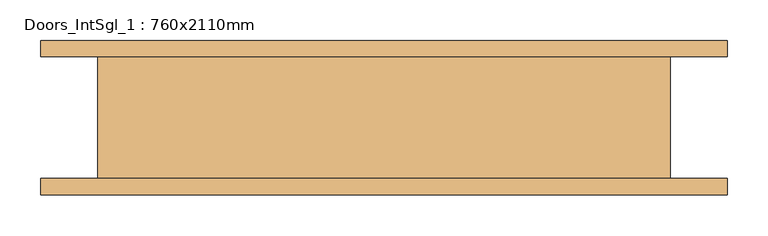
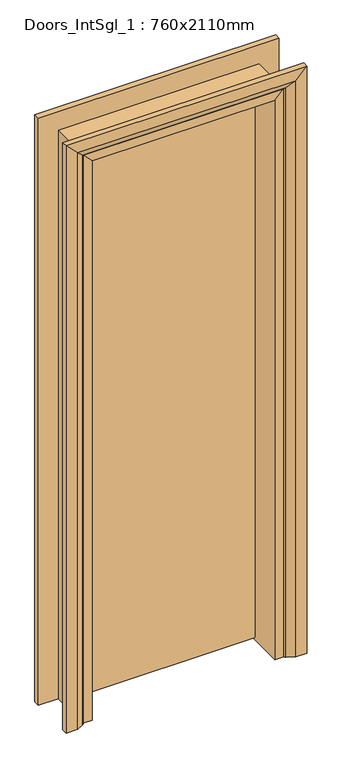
"""IFC4 building model written with IfcOpenShell, lengths in millimetres: door geometry, Doors_IntSgl_1 : 760x2110mm."""

from ifc_helpers import new_model, si_unit, frame, origin, place, context, project, spatial, polyline, circle_curve, ellipse_curve, outline, extrude, faceted_brep, source, transform, mapped, element, save
from ifc_brep_helpers import plane_surface, cylinder_surface, advanced_brep


def doors_intsgl_1_760x2110mm_a62a0124(model_context):
    return source(origin(), model_context, "Body", "SolidModel", [
        extrude(outline(polyline([(345.0, 45.0), (-345.0, 45.0), (-345.0, 75.0), (345.0, 75.0), (345.0, 45.0)])), frame((0.0, 0.0, 8.0), z_axis=(0.0, 0.0, 1.0), x_axis=(1.0, 0.0, 0.0)), (0.0, 0.0, 1.0), 2087.0),
        advanced_brep(
        [(422.0, 95.0, 0.0), (422.0, 75.0, 0.0), (352.0, 75.0, 0.0), (356.0, 81.0, 0.0), (382.0, 95.0, 0.0), (422.0, 95.0, 2172.0), (422.0, 75.0, 2172.0), (-422.0, 75.0, 2172.0), (-422.0, 75.0, 0.0), (-352.0, 75.0, 0.0), (-352.0, 75.0, 2102.0), (352.0, 75.0, 2102.0), (356.0, 81.0, 2106.0), (382.0, 95.0, 2132.0), (-382.0, 95.0, 2132.0), (-382.0, 95.0, 0.0), (-422.0, 95.0, 0.0), (-422.0, 95.0, 2172.0), (-356.0, 81.0, 0.0), (-356.0, 81.0, 2106.0)],
        [
            (0, 1),
            (1, 2),
            (2, 3, circle_curve(frame((360.0, 74.0, 0.0), z_axis=(0.0, 0.0, -1.0), x_axis=(1.0, 0.0, 0.0)), 8.0622577)),
            (3, 4),
            (4, 0),
            (0, 5),
            (5, 6),
            (6, 1),
            (6, 7),
            (7, 8),
            (8, 9),
            (9, 10),
            (10, 11),
            (11, 2),
            (11, 12, ellipse_curve(frame((360.0, 74.0, 2110.0), z_axis=(0.7071067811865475, 0.0, -0.7071067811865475), x_axis=(-0.7071067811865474, 0.0, -0.7071067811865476)), 11.4017543, 8.0622577)),
            (12, 3),
            (12, 13),
            (13, 4),
            (13, 14),
            (14, 15),
            (15, 16),
            (16, 17),
            (17, 5),
            (7, 17),
            (16, 8),
            (15, 18),
            (18, 9, circle_curve(frame((-360.0, 74.0, 0.0), z_axis=(0.0, 0.0, -1.0), x_axis=(-1.0, 0.0, 0.0)), 8.0622577)),
            (19, 10, ellipse_curve(frame((-360.0, 74.0, 2110.0), z_axis=(-0.7071067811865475, 0.0, -0.7071067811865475), x_axis=(-0.7071067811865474, 0.0, 0.7071067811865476)), 11.4017543, 8.0622577)),
            (18, 19),
            (14, 19),
            (19, 12),
        ],
        [
            plane_surface(frame((352.0, 75.0, 0.0), z_axis=(0.0, 0.0, -1.0), x_axis=(0.0, -1.0, 0.0))),
            plane_surface(frame((422.0, 95.0, 0.0), z_axis=(1.0, 0.0, 0.0), x_axis=(0.0, 0.0, 1.0))),
            plane_surface(frame((422.0, 75.0, 0.0), z_axis=(0.0, -1.0, 0.0), x_axis=(0.0, 0.0, 1.0))),
            cylinder_surface(frame((360.0, 74.0, 0.0), z_axis=(0.0, 0.0, -1.0), x_axis=(1.0, 0.0, 0.0)), 8.0622577),
            plane_surface(frame((356.0, 81.0, 0.0), z_axis=(-0.4740998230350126, 0.880471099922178, 0.0), x_axis=(0.0, 0.0, 1.0))),
            plane_surface(frame((382.0, 95.0, 0.0), z_axis=(0.0, 1.0, 0.0), x_axis=(0.0, 0.0, 1.0))),
            plane_surface(frame((-422.0, 95.0, 2172.0), z_axis=(-1.0, 0.0, 0.0), x_axis=(0.0, 0.0, -1.0))),
            plane_surface(frame((-352.0, 75.0, 0.0), z_axis=(0.0, 0.0, -1.0), x_axis=(0.0, -1.0, 0.0))),
            cylinder_surface(frame((-360.0, 74.0, 2102.0), z_axis=(0.0, 0.0, 1.0), x_axis=(-1.0, 0.0, 0.0)), 8.0622577),
            plane_surface(frame((-356.0, 81.0, 2106.0), z_axis=(0.47409982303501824, 0.8804710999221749, 0.0), x_axis=(0.0, 0.0, -1.0))),
            plane_surface(frame((422.0, 95.0, 2172.0), z_axis=(0.0, 0.0, 1.0), x_axis=(-1.0, 0.0, 0.0))),
            cylinder_surface(frame((352.0, 74.0, 2110.0), z_axis=(1.0, 0.0, 0.0), x_axis=(0.0, 0.0, 1.0)), 8.0622577),
            plane_surface(frame((356.0, 81.0, 2106.0), z_axis=(0.0, 0.8804710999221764, -0.4740998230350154), x_axis=(-1.0, 0.0, 0.0))),
        ],
        [
            (0, [[1, 2, 3, 4, 5]]),
            (1, [[-1, 6, 7, 8]]),
            (2, [[-2, -8, 9, 10, 11, 12, 13, 14]]),
            (3, [[-3, -14, 15, 16]]),
            (4, [[-4, -16, 17, 18]]),
            (5, [[-5, -18, 19, 20, 21, 22, 23, -6]]),
            (6, [[24, -22, 25, -10]]),
            (7, [[-21, 26, 27, -11, -25]]),
            (8, [[28, -12, -27, 29]]),
            (9, [[30, -29, -26, -20]]),
            (10, [[-7, -23, -24, -9]]),
            (11, [[-15, -13, -28, 31]]),
            (12, [[-17, -31, -30, -19]]),
        ],
    ),
        extrude(outline(polyline([(0.0, -347.0), (0.0, -328.0), (2078.0, -328.0), (2078.0, 328.0), (0.0, 328.0), (0.0, 347.0), (2097.0, 347.0), (2097.0, -347.0), (0.0, -347.0)])), frame((0.0, 11.0, 0.0), z_axis=(0.0, 1.0, 0.0), x_axis=(0.0, 0.0, 1.0)), (0.0, 0.0, 1.0), 32.0),
        advanced_brep(
        [(-422.0, -95.0, 0.0), (-422.0, -75.0, 0.0), (-352.0, -75.0, 0.0), (-356.0, -81.0, 0.0), (-382.0, -95.0, 0.0), (-422.0, -95.0, 2172.0), (-422.0, -75.0, 2172.0), (-352.0, -75.0, 2102.0), (-356.0, -81.0, 2106.0), (-382.0, -95.0, 2132.0), (422.0, -95.0, 0.0), (382.0, -95.0, 0.0), (356.0, -81.0, 0.0), (352.0, -75.0, 0.0), (422.0, -75.0, 0.0), (422.0, -95.0, 2172.0), (382.0, -95.0, 2132.0), (356.0, -81.0, 2106.0), (352.0, -75.0, 2102.0), (422.0, -75.0, 2172.0)],
        [
            (0, 1),
            (1, 2),
            (2, 3, circle_curve(frame((-360.0, -74.0, 0.0), z_axis=(0.0, 0.0, -1.0), x_axis=(-1.0, 0.0, 0.0)), 8.0622577)),
            (3, 4),
            (4, 0),
            (0, 5),
            (5, 6),
            (6, 1),
            (6, 7),
            (7, 2),
            (7, 8, ellipse_curve(frame((-360.0, -74.0, 2110.0), z_axis=(-0.7071067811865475, 0.0, -0.7071067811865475), x_axis=(0.7071067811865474, 0.0, -0.7071067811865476)), 11.4017543, 8.0622577)),
            (8, 3),
            (8, 9),
            (9, 4),
            (9, 5),
            (10, 11),
            (11, 12),
            (12, 13, circle_curve(frame((360.0, -74.0, 0.0), z_axis=(0.0, 0.0, -1.0), x_axis=(1.0, 0.0, 0.0)), 8.0622577)),
            (13, 14),
            (14, 10),
            (15, 16),
            (16, 11),
            (10, 15),
            (16, 17),
            (17, 12),
            (17, 18, ellipse_curve(frame((360.0, -74.0, 2110.0), z_axis=(0.7071067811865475, 0.0, -0.7071067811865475), x_axis=(0.7071067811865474, 0.0, 0.7071067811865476)), 11.4017543, 8.0622577)),
            (18, 13),
            (18, 19),
            (19, 14),
            (19, 15),
            (5, 15),
            (19, 6),
            (18, 7),
            (17, 8),
            (16, 9),
        ],
        [
            plane_surface(frame((-352.0, -147.8010989, 0.0), z_axis=(0.0, 0.0, -1.0), x_axis=(1.0, 0.0, 0.0))),
            plane_surface(frame((-422.0, -95.0, 0.0), z_axis=(-1.0, 0.0, 0.0), x_axis=(0.0, 0.0, 1.0))),
            plane_surface(frame((-422.0, -75.0, 0.0), z_axis=(0.0, 1.0, 0.0), x_axis=(0.0, 0.0, 1.0))),
            cylinder_surface(frame((-360.0, -74.0, 0.0), z_axis=(0.0, 0.0, -1.0), x_axis=(-1.0, 0.0, 0.0)), 8.0622577),
            plane_surface(frame((-356.0, -81.0, 0.0), z_axis=(0.4740998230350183, -0.8804710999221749, 0.0), x_axis=(0.0, 0.0, 1.0))),
            plane_surface(frame((-382.0, -95.0, 0.0), z_axis=(0.0, -1.0, 0.0), x_axis=(0.0, 0.0, 1.0))),
            plane_surface(frame((352.0, -147.8010989, 0.0), z_axis=(0.0, 0.0, -1.0), x_axis=(-1.0, 0.0, 0.0))),
            plane_surface(frame((382.0, -95.0, 2132.0), z_axis=(0.0, -1.0, 0.0), x_axis=(0.0, 0.0, -1.0))),
            plane_surface(frame((356.0, -81.0, 2106.0), z_axis=(-0.4740998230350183, -0.8804710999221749, 0.0), x_axis=(0.0, 0.0, -1.0))),
            cylinder_surface(frame((360.0, -74.0, 2102.0), z_axis=(0.0, 0.0, 1.0), x_axis=(1.0, 0.0, 0.0)), 8.0622577),
            plane_surface(frame((422.0, -75.0, 2172.0), z_axis=(0.0, 1.0, 0.0), x_axis=(0.0, 0.0, -1.0))),
            plane_surface(frame((422.0, -95.0, 2172.0), z_axis=(1.0, 0.0, 0.0), x_axis=(0.0, 0.0, -1.0))),
            plane_surface(frame((-422.0, -95.0, 2172.0), z_axis=(0.0, 0.0, 1.0), x_axis=(1.0, 0.0, 0.0))),
            plane_surface(frame((-422.0, -75.0, 2172.0), z_axis=(0.0, 1.0, 0.0), x_axis=(1.0, 0.0, 0.0))),
            cylinder_surface(frame((-352.0, -74.0, 2110.0), z_axis=(-1.0, 0.0, 0.0), x_axis=(0.0, 0.0, 1.0)), 8.0622577),
            plane_surface(frame((-356.0, -81.0, 2106.0), z_axis=(0.0, -0.8804710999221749, -0.4740998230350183), x_axis=(1.0, 0.0, 0.0))),
            plane_surface(frame((-382.0, -95.0, 2132.0), z_axis=(0.0, -1.0, 0.0), x_axis=(1.0, 0.0, 0.0))),
        ],
        [
            (0, [[1, 2, 3, 4, 5]]),
            (1, [[-1, 6, 7, 8]]),
            (2, [[-2, -8, 9, 10]]),
            (3, [[-3, -10, 11, 12]]),
            (4, [[-4, -12, 13, 14]]),
            (5, [[-5, -14, 15, -6]]),
            (6, [[16, 17, 18, 19, 20]]),
            (7, [[21, 22, -16, 23]]),
            (8, [[24, 25, -17, -22]]),
            (9, [[26, 27, -18, -25]]),
            (10, [[28, 29, -19, -27]]),
            (11, [[30, -23, -20, -29]]),
            (12, [[-7, 31, -30, 32]]),
            (13, [[-9, -32, -28, 33]]),
            (14, [[-11, -33, -26, 34]]),
            (15, [[-13, -34, -24, 35]]),
            (16, [[-15, -35, -21, -31]]),
        ],
    ),
        faceted_brep([(-320.0, 75.0, 0.0), (-320.0, -75.0, 0.0), (-352.0, -75.0, 0.0), (-352.0, 75.0, 0.0), (-320.0, 75.0, 2070.0), (-320.0, -75.0, 2070.0), (-352.0, -75.0, 2102.0), (-352.0, 75.0, 2102.0), (320.0, 75.0, 0.0), (352.0, 75.0, 0.0), (352.0, -75.0, 0.0), (320.0, -75.0, 0.0), (320.0, 75.0, 2070.0), (352.0, 75.0, 2102.0), (352.0, -75.0, 2102.0), (320.0, -75.0, 2070.0)], [[[0, 1, 2, 3]], [[1, 0, 4, 5]], [[2, 1, 5, 6]], [[3, 2, 6, 7]], [[0, 3, 7, 4]], [[8, 9, 10, 11]], [[12, 13, 9, 8]], [[13, 14, 10, 9]], [[14, 15, 11, 10]], [[15, 12, 8, 11]], [[5, 4, 12, 15]], [[6, 5, 15, 14]], [[7, 6, 14, 13]], [[4, 7, 13, 12]]]),
    ])


if __name__ == "__main__":
    model = new_model("IFC4")
    model_context = context("Model", 3, world=origin())
    ifc_project = project(units=[si_unit("LENGTHUNIT", "METRE", prefix="MILLI")], contexts=[model_context])
    site = spatial("IfcSite", under=ifc_project)
    building = spatial("IfcBuilding", under=site)
    placement = place(None, origin())
    doors_intsgl_1_760x2110mm_shape = doors_intsgl_1_760x2110mm_a62a0124(model_context)
    element("IfcDoor", 1, ObjectType="Doors_IntSgl_1 : 760x2110mm", at=placement, inside=building, context=model_context, shape_type="MappedRepresentation", body=[
        mapped(doors_intsgl_1_760x2110mm_shape, transform((0.0, 0.0, 0.0), x_axis=(1.0, 0.0, 0.0), y_axis=(0.0, 1.0, 0.0), z_axis=(0.0, 0.0, 1.0))),
    ])
    save(model, "model.ifc")
